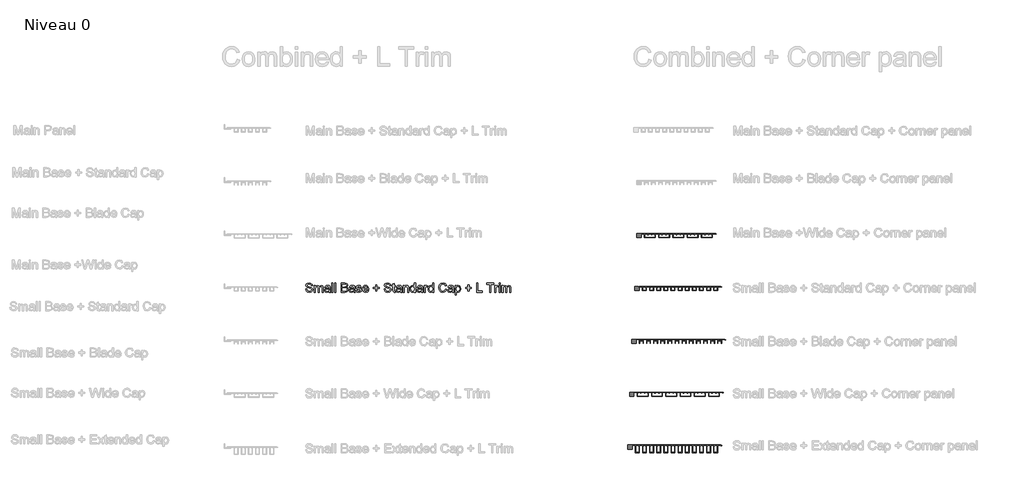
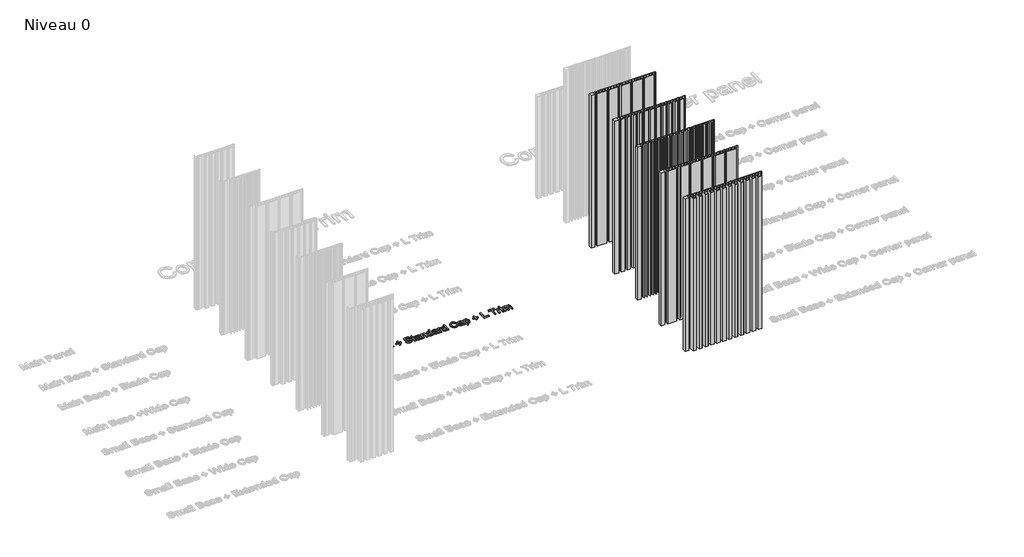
# One storey, part 11 of 25: 6 proxies.
"""IFC4 building model written with IfcOpenShell, lengths in millimetres."""

from ifc_helpers import new_model, si_unit, origin, origin_with_axes, place, context, project, spatial, polyline, outline, extrude, transform, mapped, element, save
from components import generic_models_9d76b78a, generic_models_3f512c65, generic_models_a6b40384, generic_models_edd7c389, a_gen_line_small_base_corner_angle_a_gen_line_small_base_130ce5b7

model = new_model("IFC4")

# Units and contexts
model_context = context("Model", 3, world=origin())
ifc_project = project(units=[si_unit("LENGTHUNIT", "METRE", prefix="MILLI")], contexts=[model_context])

# Site, building, storey
site = spatial("IfcSite", under=ifc_project)
building = spatial("IfcBuilding", under=site)
storey = spatial("IfcBuildingStorey", under=building, Name="Niveau 0", Elevation=0.0)

# Proxies
placement = place(None, origin())
generic_models_shape = generic_models_9d76b78a(model_context)
element("IfcBuildingElementProxy", 1, Name="A_GEN_LINE_Small Base_Extended Cap_Corner Angle : A_GEN_LINE_Small Base_Extended Cap_Corner Angle", ObjectType="A_GEN_LINE_Small Base_Extended Cap_Corner Angle : A_GEN_LINE_Small Base_Extended Cap_Corner Angle", at=placement, inside=storey, context=model_context, shape_type="MappedRepresentation", body=[
    mapped(generic_models_shape, transform((3101.4745082, 2119.3939218, 0.0), x_axis=(1.0, 0.0, 0.0), y_axis=(0.0, 1.0, 0.0), z_axis=(0.0, 0.0, 1.0))),
])
generic_models_2_shape = generic_models_3f512c65(model_context)
element("IfcBuildingElementProxy", 2, Name="A_GEN_LINE_Small Base_Wide Cap_Corner Angle : A_GEN_LINE_Small Base_Wide Cap_Corner Angle", ObjectType="A_GEN_LINE_Small Base_Wide Cap_Corner Angle : A_GEN_LINE_Small Base_Wide Cap_Corner Angle", at=placement, inside=storey, context=model_context, shape_type="MappedRepresentation", body=[
    mapped(generic_models_2_shape, transform((3101.4745082, 2527.9258522, 0.0), x_axis=(1.0, 0.0, 0.0), y_axis=(0.0, 1.0, 0.0), z_axis=(0.0, 0.0, 1.0))),
])
generic_models_3_shape = generic_models_a6b40384(model_context)
element("IfcBuildingElementProxy", 3, Name="A_GEN_LINE_Small Base_Blade Cap_Corner Angle : A_GEN_LINE_Small Base_Blade Cap_Corner Angle", ObjectType="A_GEN_LINE_Small Base_Blade Cap_Corner Angle : A_GEN_LINE_Small Base_Blade Cap_Corner Angle", at=placement, inside=storey, context=model_context, shape_type="MappedRepresentation", body=[
    mapped(generic_models_3_shape, transform((3118.1871159, 2936.4577825, 0.0), x_axis=(1.0, 0.0, 0.0), y_axis=(0.0, 1.0, 0.0), z_axis=(0.0, 0.0, 1.0))),
])
generic_models_4_shape = generic_models_edd7c389(model_context)
element("IfcBuildingElementProxy", 4, Name="A_GEN_LINE_Main Base_Wide Cap_Corner Angle : A_GEN_LINE_Main Base_Wide Cap_Corner Angle", ObjectType="A_GEN_LINE_Main Base_Wide Cap_Corner Angle : A_GEN_LINE_Main Base_Wide Cap_Corner Angle", at=placement, inside=storey, context=model_context, shape_type="MappedRepresentation", body=[
    mapped(generic_models_4_shape, transform((3156.2043729, 3753.5216431, 0.0), x_axis=(1.0, 0.0, 0.0), y_axis=(0.0, 1.0, 0.0), z_axis=(0.0, 0.0, 1.0))),
])
element("IfcBuildingElementProxy", 5, Name="70mm Arial", ObjectType="70mm Arial", at=placement, inside=storey, context=model_context, shape_type="SweptSolid", body=[
    extrude(outline(polyline([(582.8802856, 3324.589306), (591.6702128, 3324.589306), (594.5029041, 3315.790795), (601.4215382, 3310.2284192), (611.9625836, 3308.1081926), (621.1473708, 3309.7133844), (627.0788548, 3314.1255158), (629.0274031, 3320.0226642), (627.5681379, 3325.5077847), (621.5937343, 3329.4993044), (608.7951196, 3332.8556144), (595.0179389, 3337.1904906), (587.5413505, 3343.7314325), (585.0777674, 3352.4698561), (588.1250566, 3362.4186116), (597.0265746, 3369.4402526), (610.0569549, 3371.8351644), (623.9628943, 3369.3286617), (633.2335206, 3361.9636642), (636.7185893, 3350.9590874), (627.9286622, 3350.9590874), (622.9499925, 3359.9893641), (610.4003114, 3363.0452372), (597.8162946, 3360.0236998), (593.8676945, 3352.7273735), (596.6660503, 3346.6327952), (611.0183532, 3341.7227968), (626.5724039, 3337.3106654), (635.0790619, 3330.1860174), (637.8173302, 3320.2458459), (634.6670341, 3309.7305522), (625.6024217, 3302.0565338), (612.3059401, 3299.3182655), (596.6059629, 3302.2711316), (586.6743753, 3311.1640657), (582.8802856, 3324.589306)])), origin_with_axes(), (0.0, 0.0, 1.0), 10.0),
    extrude(outline(polyline([(649.9034801, 3300.4170064), (649.9034801, 3352.0578283), (658.6934072, 3352.0578283), (658.6934072, 3343.5597542), (664.7364821, 3350.5213078), (673.3375631, 3353.1565692), (682.1446581, 3350.4698044), (686.9859852, 3342.9417125), (693.8445318, 3350.602855), (702.5057003, 3353.1565692), (713.9995601, 3348.9075322), (718.0254154, 3335.8170645), (718.0254154, 3300.4170064), (709.2354882, 3300.4170064), (709.2354882, 3332.0401427), (708.4200165, 3339.3793885), (705.4671503, 3342.993216), (700.4455611, 3344.3666421), (691.8015605, 3340.8472376), (688.3594113, 3329.5679757), (688.3594113, 3300.4170064), (679.5694841, 3300.4170064), (679.5694841, 3333.0187088), (677.5350967, 3341.5339507), (670.8653961, 3344.3666421), (664.3587899, 3342.4781812), (660.0324977, 3336.950141), (658.6934072, 3326.4605991), (658.6934072, 3300.4170064), (649.9034801, 3300.4170064)])), origin_with_axes(), (0.0, 0.0, 1.0), 10.0),
    extrude(outline(polyline([(764.1725329, 3307.0094517), (755.648707, 3301.052216), (746.2321542, 3299.3182655), (733.4678753, 3303.4900473), (729.0128243, 3314.1512675), (730.6952713, 3321.1042372), (735.1159866, 3326.1515782), (741.2706524, 3329.0357731), (748.8759995, 3330.3576957), (764.1210294, 3333.3792331), (764.1725329, 3335.3363654), (761.7518693, 3341.8258038), (752.0348796, 3344.3666421), (743.1419455, 3342.6756112), (738.9014923, 3336.6754558), (730.1115652, 3337.7741967), (733.9142387, 3346.3581099), (741.5710893, 3351.3882831), (753.1679561, 3353.1565692), (763.8205924, 3351.594297), (769.8379156, 3347.6714487), (772.5332643, 3341.705629), (772.96246, 3334.0144427), (772.96246, 3323.0785373), (773.4088235, 3307.8077557), (775.1599418, 3300.4170064), (766.3700146, 3300.4170064), (764.1725329, 3307.0094517)]), holes=[polyline([(764.1725329, 3324.589306), (749.9919082, 3321.8939573), (742.4294807, 3320.4690277), (739.0044993, 3318.1513711), (737.8027514, 3314.7693093), (740.420845, 3310.0138214), (748.1034473, 3308.1081926), (756.9963814, 3310.2112514), (762.7304354, 3315.3015119), (764.1210294, 3322.0999712), (764.1725329, 3324.589306)])]), origin_with_axes(), (0.0, 0.0, 1.0), 10.0),
    extrude(outline(polyline([(785.0486098, 3300.4170064), (785.0486098, 3370.7364235), (793.8385369, 3370.7364235), (793.8385369, 3300.4170064), (785.0486098, 3300.4170064)])), origin_with_axes(), (0.0, 0.0, 1.0), 10.0),
    extrude(outline(polyline([(807.0234276, 3300.4170064), (807.0234276, 3370.7364235), (815.8133548, 3370.7364235), (815.8133548, 3300.4170064), (807.0234276, 3300.4170064)])), origin_with_axes(), (0.0, 0.0, 1.0), 10.0),
    extrude(outline(polyline([(857.5655087, 3300.4170064), (857.5655087, 3370.7364235), (884.3988214, 3370.7364235), (897.5407926, 3368.6677004), (905.3006501, 3362.3070207), (908.1075897, 3353.3110796), (905.7470136, 3345.0962747), (898.6137817, 3338.8729376), (907.2749502, 3332.3148279), (910.3050715, 3321.3789225), (908.2363484, 3311.928034), (903.1117522, 3305.198246), (895.4634856, 3301.6273381), (884.1928075, 3300.4170064), (857.5655087, 3300.4170064)]), holes=[polyline([(866.3554358, 3309.2069335), (884.3816536, 3309.2069335), (890.9054276, 3309.55029), (896.4248838, 3311.4645027), (900.0816309, 3315.3701832), (901.5151444, 3321.2930833), (899.8326974, 3328.1258783), (894.3819125, 3332.203237), (883.5232623, 3333.3792331), (866.3554358, 3333.3792331), (866.3554358, 3309.2069335)]), polyline([(866.3554358, 3342.1691603), (882.4073536, 3342.1691603), (891.7809868, 3342.9245446), (897.4206178, 3346.1778478), (899.3176626, 3351.9033179), (897.5493765, 3357.6373719), (892.4848677, 3361.0280176), (881.1884379, 3361.9464963), (866.3554358, 3361.9464963), (866.3554358, 3342.1691603)])]), origin_with_axes(), (0.0, 0.0, 1.0), 10.0),
    extrude(outline(polyline([(954.2547072, 3307.0094517), (945.7308814, 3301.052216), (936.3143286, 3299.3182655), (923.5500496, 3303.4900473), (919.0949987, 3314.1512675), (920.7774457, 3321.1042372), (925.198161, 3326.1515782), (931.3528267, 3329.0357731), (938.9581739, 3330.3576957), (954.2032037, 3333.3792331), (954.2547072, 3335.3363654), (951.8340437, 3341.8258038), (942.1170539, 3344.3666421), (933.2241198, 3342.6756112), (928.9836667, 3336.6754558), (920.1937396, 3337.7741967), (923.9964131, 3346.3581099), (931.6532637, 3351.3882831), (943.2501305, 3353.1565692), (953.9027668, 3351.594297), (959.9200899, 3347.6714487), (962.6154387, 3341.705629), (963.0446343, 3334.0144427), (963.0446343, 3323.0785373), (963.4909978, 3307.8077557), (965.2421161, 3300.4170064), (956.452189, 3300.4170064), (954.2547072, 3307.0094517)]), holes=[polyline([(954.2547072, 3324.589306), (940.0740826, 3321.8939573), (932.511655, 3320.4690277), (929.0866736, 3318.1513711), (927.8849258, 3314.7693093), (930.5030193, 3310.0138214), (938.1856217, 3308.1081926), (947.0785558, 3310.2112514), (952.8126098, 3315.3015119), (954.2032037, 3322.0999712), (954.2547072, 3324.589306)])]), origin_with_axes(), (0.0, 0.0, 1.0), 10.0),
    extrude(outline(polyline([(971.8345615, 3315.7993789), (980.6244886, 3316.8981198), (984.6932635, 3310.3743457), (994.0153933, 3308.1081926), (1002.9769987, 3310.1854996), (1005.8955291, 3315.0611623), (1002.9598308, 3319.0097624), (993.9123863, 3321.5162651), (980.6759921, 3325.8168056), (974.8990185, 3330.8383948), (972.9333024, 3337.9287072), (974.5127424, 3344.4782329), (978.8218668, 3349.4826543), (984.4099944, 3352.0835801), (991.9724219, 3353.1565692), (1002.6679778, 3351.4312026), (1009.466437, 3346.7615539), (1012.4879745, 3338.8729376), (1003.6980474, 3337.7741967), (1000.3932408, 3342.6241077), (992.659135, 3344.3666421), (984.2469, 3342.7013629), (981.7232295, 3338.8214341), (982.7704669, 3336.263428), (986.0495218, 3334.3234636), (993.6205332, 3332.4521705), (1006.5221548, 3328.3147243), (1012.5137262, 3323.6279077), (1014.6854563, 3315.988225), (1012.1360341, 3307.57599), (1004.7796204, 3301.4728277), (993.8952185, 3299.3182655), (978.5643495, 3303.4728795), (971.8345615, 3315.7993789)])), origin_with_axes(), (0.0, 0.0, 1.0), 10.0),
    extrude(outline(polyline([(1060.7295668, 3315.7993789), (1069.3478157, 3314.700638), (1061.2875212, 3303.3527047), (1046.2742569, 3299.3182655), (1035.9606852, 3301.0586539), (1028.0248574, 3306.2798191), (1022.9646406, 3314.6426966), (1021.2779016, 3325.8082217), (1022.9818084, 3337.349293), (1028.0935287, 3345.9804178), (1035.9220576, 3351.3625313), (1045.77639, 3353.1565692), (1055.3238475, 3351.3668233), (1062.9528003, 3345.9975856), (1067.9550758, 3337.3836287), (1069.6225009, 3325.8597252), (1069.5709974, 3323.4905651), (1030.0678288, 3323.4905651), (1035.1237537, 3312.0739605), (1046.4459352, 3308.1081926), (1055.0641841, 3309.9451501), (1060.7295668, 3315.7993789)]), holes=[polyline([(1030.0678288, 3332.2804923), (1060.8325738, 3332.2804923), (1057.3131693, 3340.2463637), (1045.7420543, 3344.3666421), (1034.9177397, 3341.0790033), (1030.0678288, 3332.2804923)])]), origin_with_axes(), (0.0, 0.0, 1.0), 10.0),
    extrude(outline(polyline([(1123.4608046, 3311.4044153), (1123.4608046, 3330.0830105), (1104.7822095, 3330.0830105), (1104.7822095, 3338.8729376), (1123.4608046, 3338.8729376), (1123.4608046, 3357.5515328), (1132.2507318, 3357.5515328), (1132.2507318, 3338.8729376), (1150.9293269, 3338.8729376), (1150.9293269, 3330.0830105), (1132.2507318, 3330.0830105), (1132.2507318, 3311.4044153), (1123.4608046, 3311.4044153)])), origin_with_axes(), (0.0, 0.0, 1.0), 10.0),
    extrude(outline(polyline([(1188.2865173, 3324.589306), (1197.0764444, 3324.589306), (1199.9091358, 3315.790795), (1206.8277698, 3310.2284192), (1217.3688153, 3308.1081926), (1226.5536024, 3309.7133844), (1232.4850864, 3314.1255158), (1234.4336347, 3320.0226642), (1232.9743695, 3325.5077847), (1226.9999659, 3329.4993044), (1214.2013513, 3332.8556144), (1200.4241706, 3337.1904906), (1192.9475821, 3343.7314325), (1190.483999, 3352.4698561), (1193.5312882, 3362.4186116), (1202.4328063, 3369.4402526), (1215.4631865, 3371.8351644), (1229.3691259, 3369.3286617), (1238.6397522, 3361.9636642), (1242.124821, 3350.9590874), (1233.3348938, 3350.9590874), (1228.3562242, 3359.9893641), (1215.806543, 3363.0452372), (1203.2225263, 3360.0236998), (1199.2739262, 3352.7273735), (1202.0722819, 3346.6327952), (1216.4245848, 3341.7227968), (1231.9786356, 3337.3106654), (1240.4852936, 3330.1860174), (1243.2235619, 3320.2458459), (1240.0732657, 3309.7305522), (1231.0086534, 3302.0565338), (1217.7121718, 3299.3182655), (1202.0121945, 3302.2711316), (1192.0806069, 3311.1640657), (1188.2865173, 3324.589306)])), origin_with_axes(), (0.0, 0.0, 1.0), 10.0),
    extrude(outline(polyline([(1273.9883069, 3307.7476683), (1275.0870478, 3300.159489), (1268.5117702, 3299.3182655), (1261.1467727, 3300.7775307), (1257.4728578, 3304.605956), (1256.4084526, 3314.5804632), (1256.4084526, 3343.2679012), (1249.8160072, 3343.2679012), (1249.8160072, 3352.0578283), (1256.4084526, 3352.0578283), (1256.4084526, 3364.6075094), (1265.1983797, 3369.7750252), (1265.1983797, 3352.0578283), (1273.9883069, 3352.0578283), (1273.9883069, 3343.2679012), (1265.1983797, 3343.2679012), (1265.1983797, 3314.8379806), (1265.661911, 3310.3056744), (1267.1640958, 3308.7004826), (1270.1598816, 3308.1081926), (1273.9883069, 3307.7476683)])), origin_with_axes(), (0.0, 0.0, 1.0), 10.0),
    extrude(outline(polyline([(1315.7404608, 3307.0094517), (1307.2166349, 3301.052216), (1297.8000821, 3299.3182655), (1285.0358032, 3303.4900473), (1280.5807522, 3314.1512675), (1282.2631992, 3321.1042372), (1286.6839145, 3326.1515782), (1292.8385803, 3329.0357731), (1300.4439274, 3330.3576957), (1315.6889573, 3333.3792331), (1315.7404608, 3335.3363654), (1313.3197972, 3341.8258038), (1303.6028075, 3344.3666421), (1294.7098734, 3342.6756112), (1290.4694202, 3336.6754558), (1281.6794931, 3337.7741967), (1285.4821667, 3346.3581099), (1293.1390173, 3351.3882831), (1304.735884, 3353.1565692), (1315.3885203, 3351.594297), (1321.4058435, 3347.6714487), (1324.1011922, 3341.705629), (1324.5303879, 3334.0144427), (1324.5303879, 3323.0785373), (1324.9767514, 3307.8077557), (1326.7278697, 3300.4170064), (1317.9379426, 3300.4170064), (1315.7404608, 3307.0094517)]), holes=[polyline([(1315.7404608, 3324.589306), (1301.5598361, 3321.8939573), (1293.9974086, 3320.4690277), (1290.5724272, 3318.1513711), (1289.3706794, 3314.7693093), (1291.9887729, 3310.0138214), (1299.6713752, 3308.1081926), (1308.5643093, 3310.2112514), (1314.2983633, 3315.3015119), (1315.6889573, 3322.0999712), (1315.7404608, 3324.589306)])]), origin_with_axes(), (0.0, 0.0, 1.0), 10.0),
    extrude(outline(polyline([(1336.6165377, 3300.4170064), (1336.6165377, 3352.0578283), (1345.4064649, 3352.0578283), (1345.4064649, 3344.8473412), (1352.1276689, 3351.0792622), (1361.3038721, 3353.1565692), (1369.6045162, 3351.4827061), (1375.269899, 3347.0877426), (1377.9051603, 3340.6240559), (1378.3686916, 3332.1259818), (1378.3686916, 3300.4170064), (1369.5787645, 3300.4170064), (1369.5787645, 3330.9414018), (1368.5658627, 3338.7184272), (1364.9863709, 3342.8301216), (1358.9518799, 3344.3666421), (1349.4151523, 3340.915909), (1345.4064649, 3327.8168574), (1345.4064649, 3300.4170064), (1336.6165377, 3300.4170064)])), origin_with_axes(), (0.0, 0.0, 1.0), 10.0),
    extrude(outline(polyline([(1422.3183273, 3300.4170064), (1422.3183273, 3308.7090665), (1416.5027261, 3301.6659658), (1408.4638914, 3299.3182655), (1397.5794894, 3302.7174951), (1389.8883032, 3312.2027192), (1387.1586188, 3326.1859139), (1389.6737053, 3340.1776924), (1397.2103811, 3349.8088431), (1408.4295557, 3353.1565692), (1416.5327698, 3350.7616574), (1422.3183273, 3344.5383203), (1422.3183273, 3370.7364235), (1431.1082545, 3370.7364235), (1431.1082545, 3300.4170064), (1422.3183273, 3300.4170064)]), holes=[polyline([(1395.9485459, 3326.2202495), (1399.9143138, 3312.6147471), (1409.2707792, 3308.1081926), (1418.5156538, 3312.4087331), (1422.3183273, 3325.5507043), (1418.4469825, 3339.8171681), (1408.9102549, 3344.3666421), (1399.6567964, 3339.9974302), (1395.9485459, 3326.2202495)])]), origin_with_axes(), (0.0, 0.0, 1.0), 10.0),
    extrude(outline(polyline([(1477.2553719, 3307.0094517), (1468.7315461, 3301.052216), (1459.3149933, 3299.3182655), (1446.5507143, 3303.4900473), (1442.0956634, 3314.1512675), (1443.7781104, 3321.1042372), (1448.1988257, 3326.1515782), (1454.3534915, 3329.0357731), (1461.9588386, 3330.3576957), (1477.2038684, 3333.3792331), (1477.2553719, 3335.3363654), (1474.8347084, 3341.8258038), (1465.1177186, 3344.3666421), (1456.2247845, 3342.6756112), (1451.9843314, 3336.6754558), (1443.1944043, 3337.7741967), (1446.9970778, 3346.3581099), (1454.6539284, 3351.3882831), (1466.2507952, 3353.1565692), (1476.9034315, 3351.594297), (1482.9207547, 3347.6714487), (1485.6161034, 3341.705629), (1486.0452991, 3334.0144427), (1486.0452991, 3323.0785373), (1486.4916626, 3307.8077557), (1488.2427809, 3300.4170064), (1479.4528537, 3300.4170064), (1477.2553719, 3307.0094517)]), holes=[polyline([(1477.2553719, 3324.589306), (1463.0747473, 3321.8939573), (1455.5123197, 3320.4690277), (1452.0873384, 3318.1513711), (1450.8855905, 3314.7693093), (1453.503684, 3310.0138214), (1461.1862864, 3308.1081926), (1470.0792205, 3310.2112514), (1475.8132745, 3315.3015119), (1477.2038684, 3322.0999712), (1477.2553719, 3324.589306)])]), origin_with_axes(), (0.0, 0.0, 1.0), 10.0),
    extrude(outline(polyline([(1498.1314489, 3300.4170064), (1498.1314489, 3352.0578283), (1505.8226351, 3352.0578283), (1505.8226351, 3344.4181455), (1511.2820039, 3351.4569544), (1516.7757084, 3353.1565692), (1525.5999712, 3350.4440526), (1522.6642729, 3342.5640203), (1516.4838553, 3344.3666421), (1511.5137696, 3342.6326916), (1508.3463056, 3337.8257002), (1506.921376, 3327.55934), (1506.921376, 3300.4170064), (1498.1314489, 3300.4170064)])), origin_with_axes(), (0.0, 0.0, 1.0), 10.0),
    extrude(outline(polyline([(1562.9571615, 3300.4170064), (1562.9571615, 3308.7090665), (1557.1415603, 3301.6659658), (1549.1027256, 3299.3182655), (1538.2183236, 3302.7174951), (1530.5271374, 3312.2027192), (1527.797453, 3326.1859139), (1530.3125395, 3340.1776924), (1537.8492154, 3349.8088431), (1549.0683899, 3353.1565692), (1557.171604, 3350.7616574), (1562.9571615, 3344.5383203), (1562.9571615, 3370.7364235), (1571.7470887, 3370.7364235), (1571.7470887, 3300.4170064), (1562.9571615, 3300.4170064)]), holes=[polyline([(1536.5873801, 3326.2202495), (1540.553148, 3312.6147471), (1549.9096134, 3308.1081926), (1559.154488, 3312.4087331), (1562.9571615, 3325.5507043), (1559.0858167, 3339.8171681), (1549.5490891, 3344.3666421), (1540.2956306, 3339.9974302), (1536.5873801, 3326.2202495)])]), origin_with_axes(), (0.0, 0.0, 1.0), 10.0),
    extrude(outline(polyline([(1662.9425827, 3325.4133617), (1671.7325099, 3323.1472086), (1667.6766109, 3312.9044541), (1661.3116392, 3305.4214278), (1652.9509077, 3300.8440561), (1642.9077293, 3299.3182655), (1624.6154102, 3303.9364108), (1613.8855187, 3317.3101476), (1610.2030199, 3336.1089175), (1614.3662178, 3355.2167084), (1626.2034341, 3367.6032952), (1643.0965754, 3371.8351644), (1660.7021814, 3366.3586277), (1670.633769, 3350.9419196), (1661.8438418, 3348.8474448), (1654.6333547, 3359.6545915), (1642.7532188, 3363.0452372), (1629.0017898, 3359.2854832), (1621.2333484, 3349.1908013), (1618.992947, 3336.1260854), (1621.6453762, 3320.9840625), (1629.9031007, 3311.3099923), (1642.0321701, 3308.1081926), (1655.4831621, 3312.4688205), (1662.9425827, 3325.4133617)])), origin_with_axes(), (0.0, 0.0, 1.0), 10.0),
    extrude(outline(polyline([(1715.6821455, 3307.0094517), (1707.1583197, 3301.052216), (1697.7417669, 3299.3182655), (1684.977488, 3303.4900473), (1680.522437, 3314.1512675), (1682.204884, 3321.1042372), (1686.6255993, 3326.1515782), (1692.7802651, 3329.0357731), (1700.3856122, 3330.3576957), (1715.6306421, 3333.3792331), (1715.6821455, 3335.3363654), (1713.261482, 3341.8258038), (1703.5444923, 3344.3666421), (1694.6515582, 3342.6756112), (1690.411105, 3336.6754558), (1681.6211779, 3337.7741967), (1685.4238514, 3346.3581099), (1693.080702, 3351.3882831), (1704.6775688, 3353.1565692), (1715.3302051, 3351.594297), (1721.3475283, 3347.6714487), (1724.042877, 3341.705629), (1724.4720727, 3334.0144427), (1724.4720727, 3323.0785373), (1724.9184362, 3307.8077557), (1726.6695545, 3300.4170064), (1717.8796273, 3300.4170064), (1715.6821455, 3307.0094517)]), holes=[polyline([(1715.6821455, 3324.589306), (1701.5015209, 3321.8939573), (1693.9390934, 3320.4690277), (1690.514112, 3318.1513711), (1689.3123641, 3314.7693093), (1691.9304577, 3310.0138214), (1699.61306, 3308.1081926), (1708.5059941, 3310.2112514), (1714.2400481, 3315.3015119), (1715.6306421, 3322.0999712), (1715.6821455, 3324.589306)])]), origin_with_axes(), (0.0, 0.0, 1.0), 10.0),
    extrude(outline(polyline([(1736.5582225, 3280.6396703), (1736.5582225, 3352.0578283), (1745.3481496, 3352.0578283), (1745.3481496, 3343.4395794), (1751.4255602, 3350.7273218), (1759.6317812, 3353.1565692), (1770.7737006, 3349.7573396), (1778.052859, 3340.1776924), (1780.5078582, 3326.6322774), (1777.7352542, 3312.3915653), (1769.6835436, 3302.6917434), (1758.567376, 3299.3182655), (1750.9191093, 3301.5758347), (1745.3481496, 3307.284137), (1745.3481496, 3280.6396703), (1736.5582225, 3280.6396703)]), holes=[polyline([(1745.3481496, 3325.8253895), (1749.1508232, 3312.4344849), (1758.3785299, 3308.1081926), (1767.7950827, 3312.5889953), (1771.7179311, 3326.4777669), (1767.8895058, 3339.9030072), (1758.7390543, 3344.3666421), (1749.4083406, 3339.6197381), (1745.3481496, 3325.8253895)])]), origin_with_axes(), (0.0, 0.0, 1.0), 10.0),
    extrude(outline(polyline([(1835.4449028, 3311.4044153), (1835.4449028, 3330.0830105), (1816.7663076, 3330.0830105), (1816.7663076, 3338.8729376), (1835.4449028, 3338.8729376), (1835.4449028, 3357.5515328), (1844.2348299, 3357.5515328), (1844.2348299, 3338.8729376), (1862.9134251, 3338.8729376), (1862.9134251, 3330.0830105), (1844.2348299, 3330.0830105), (1844.2348299, 3311.4044153), (1835.4449028, 3311.4044153)])), origin_with_axes(), (0.0, 0.0, 1.0), 10.0),
    extrude(outline(polyline([(1903.5668381, 3300.4170064), (1903.5668381, 3370.7364235), (1912.3567653, 3370.7364235), (1912.3567653, 3309.2069335), (1947.5164738, 3309.2069335), (1947.5164738, 3300.4170064), (1903.5668381, 3300.4170064)])), origin_with_axes(), (0.0, 0.0, 1.0), 10.0),
    extrude(outline(polyline([(2002.4535184, 3300.4170064), (2002.4535184, 3361.9464963), (1979.3799597, 3361.9464963), (1979.3799597, 3370.7364235), (2034.3170043, 3370.7364235), (2034.3170043, 3361.9464963), (2011.2434456, 3361.9464963), (2011.2434456, 3300.4170064), (2002.4535184, 3300.4170064)])), origin_with_axes(), (0.0, 0.0, 1.0), 10.0),
    extrude(outline(polyline([(2043.1069314, 3300.4170064), (2043.1069314, 3352.0578283), (2050.7981177, 3352.0578283), (2050.7981177, 3344.4181455), (2056.2574865, 3351.4569544), (2061.751191, 3353.1565692), (2070.5754537, 3350.4440526), (2067.6397554, 3342.5640203), (2061.4593379, 3344.3666421), (2056.4892522, 3342.6326916), (2053.3217882, 3337.8257002), (2051.8968586, 3327.55934), (2051.8968586, 3300.4170064), (2043.1069314, 3300.4170064)])), origin_with_axes(), (0.0, 0.0, 1.0), 10.0),
    extrude(outline(polyline([(2076.0691582, 3300.4170064), (2076.0691582, 3352.0578283), (2084.8590853, 3352.0578283), (2084.8590853, 3300.4170064), (2076.0691582, 3300.4170064)])), origin_with_axes(), (0.0, 0.0, 1.0), 10.0),
    extrude(outline(polyline([(2076.0691582, 3361.9464963), (2076.0691582, 3370.7364235), (2084.8590853, 3370.7364235), (2084.8590853, 3361.9464963), (2076.0691582, 3361.9464963)])), origin_with_axes(), (0.0, 0.0, 1.0), 10.0),
    extrude(outline(polyline([(2098.0439761, 3300.4170064), (2098.0439761, 3352.0578283), (2106.8339032, 3352.0578283), (2106.8339032, 3343.5597542), (2112.8769781, 3350.5213078), (2121.4780591, 3353.1565692), (2130.2851541, 3350.4698044), (2135.1264812, 3342.9417125), (2141.9850278, 3350.602855), (2150.6461963, 3353.1565692), (2162.1400561, 3348.9075322), (2166.1659114, 3335.8170645), (2166.1659114, 3300.4170064), (2157.3759842, 3300.4170064), (2157.3759842, 3332.0401427), (2156.5605125, 3339.3793885), (2153.6076463, 3342.993216), (2148.5860571, 3344.3666421), (2139.9420565, 3340.8472376), (2136.4999073, 3329.5679757), (2136.4999073, 3300.4170064), (2127.7099801, 3300.4170064), (2127.7099801, 3333.0187088), (2125.6755927, 3341.5339507), (2119.0058921, 3344.3666421), (2112.4992859, 3342.4781812), (2108.1729937, 3336.950141), (2106.8339032, 3326.4605991), (2106.8339032, 3300.4170064), (2098.0439761, 3300.4170064)])), origin_with_axes(), (0.0, 0.0, 1.0), 10.0),
])
a_gen_line_small_base_corner_angle_a_gen_line_small_base_shape = a_gen_line_small_base_corner_angle_a_gen_line_small_base_130ce5b7(model_context)
element("IfcBuildingElementProxy", 6, Name="A_GEN_LINE_Small Base_Corner Angle : A_GEN_LINE_Small Base_Corner Angle", ObjectType="A_GEN_LINE_Small Base_Corner Angle : A_GEN_LINE_Small Base_Corner Angle", at=placement, inside=storey, context=model_context, shape_type="MappedRepresentation", body=[
    mapped(a_gen_line_small_base_corner_angle_a_gen_line_small_base_shape, transform((3156.2043729, 3344.9897128, 0.0), x_axis=(1.0, 0.0, 0.0), y_axis=(0.0, 1.0, 0.0), z_axis=(0.0, 0.0, 1.0))),
])

save(model, "model.ifc")
